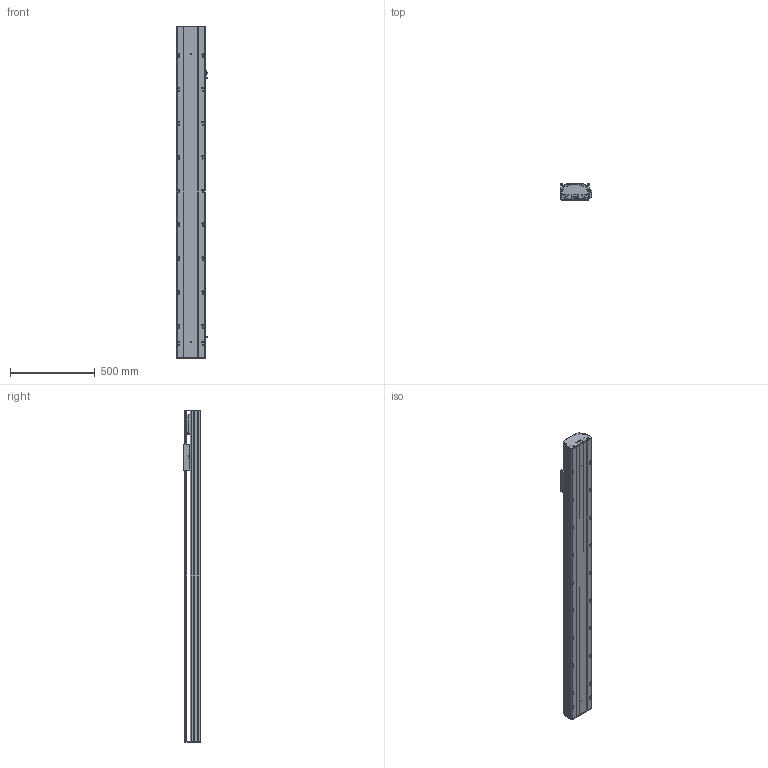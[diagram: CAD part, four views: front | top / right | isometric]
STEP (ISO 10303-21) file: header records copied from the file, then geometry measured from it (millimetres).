
FILE_DESCRIPTION (( 'STEP AP203' ), '1' );
FILE_NAME ('Y170-D10-S1550-M-P400W.STEP', '2020-01-22T14:10:19', ( '微软用户' ), ( '微软中国' ), 'SwSTEP 2.0', 'SolidWorks 2017', '' );
FILE_SCHEMA (( 'CONFIG_CONTROL_DESIGN' ));
Length unit declared in the file: millimetre
Products named in the file (10): Y170耜裔--準---; Y170--雄赽釱-梓--; 170--掛极-M; Y170耜裔--準---M; san松下电机400不带刹车----; Y170-陔遴奻裔-M; YD-Y100-135-新外置传感挡片(通用）; Y170-D10-S1550-M-P400W; Y100-135俋离換覜ん; 135-盓傅釱-FK15
Assembly tree (11 placements, depth 2):
  Y170-D10-S1550-M-P400W
    YD-Y100-135-新外置传感挡片(通用）
    Y100-135俋离換覜ん  x3
    135-盓傅釱-FK15
    Y170耜裔--準---
    Y170--雄赽釱-梓--
    170--掛极-M
    Y170耜裔--準---M
    san松下电机400不带刹车----
    Y170-陔遴奻裔-M
Bounding box: 183.5 x 97 x 1961 mm (x, y, z)
Volume: 8085542.9 mm3; surface area: 2912502.1 mm2
Topology: 11 solids, 11 shells, 833 faces, 2420 edges, 1604 vertices
Faces by surface type: cylinder 447, plane 384, torus 2
Entity records: 27660 total; most frequent: CARTESIAN_POINT 5137, DIRECTION 4542, ORIENTED_EDGE 4504, EDGE_CURVE 2252, AXIS2_PLACEMENT_3D 1625, VERTEX_POINT 1492, VECTOR 1292, LINE 1292
